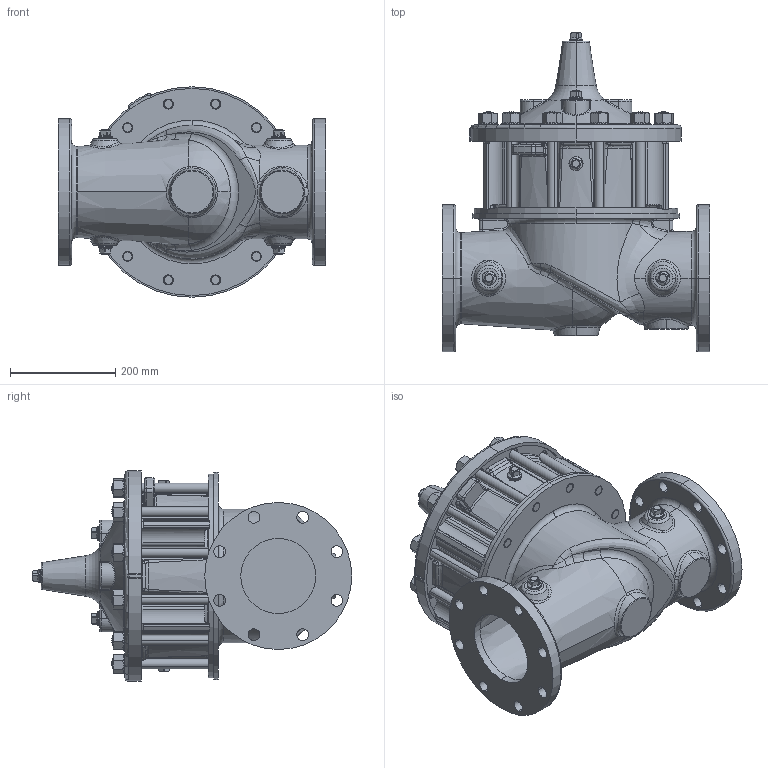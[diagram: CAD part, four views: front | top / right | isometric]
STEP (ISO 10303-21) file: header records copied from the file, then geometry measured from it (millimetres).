
FILE_DESCRIPTION (( 'STEP AP203' ), '1' );
FILE_NAME ('6in 100-02, 150AG.STEP', '2017-10-05T20:27:25', ( '' ), ( '' ), 'SwSTEP 2.0', 'SolidWorks 2017', '' );
FILE_SCHEMA (( 'CONFIG_CONTROL_DESIGN' ));
Length unit declared in the file: inch
Products named in the file (8): .750 NPT PIPE PLUG (67660)_Default STEEL, CAD PL; 6in 100-02, 150AG; 6in Body HyGl150A STD (BLUE)_Default 150 FLAT FACE; 6in Body, PU_DUCTILE IRON; 6in Cover (BLUE) with 2 or 4 Bosses Drld_2 BOSSES TAPPED; STUD .750-10 UNC (42883)_8  48034D; Hexnut .750-10 UNC (67811)_NUT, HEX HEAVY  67811-08D; WASHER, PLAIN FLAT FOR .750 SCREW (67753)_.750N   67753-04G
Assembly tree (48 placements, depth 2):
  6in 100-02, 150AG
    6in Body HyGl150A STD (BLUE)_Default 150 FLAT FACE
    6in Body, PU_DUCTILE IRON
    6in Cover (BLUE) with 2 or 4 Bosses Drld_2 BOSSES TAPPED
    STUD .750-10 UNC (42883)_8  48034D  x12
    Hexnut .750-10 UNC (67811)_NUT, HEX HEAVY  67811-08D  x12
    WASHER, PLAIN FLAT FOR .750 SCREW (67753)_.750N   67753-04G  x12
    .750 NPT PIPE PLUG (67660)_Default STEEL, CAD PL  x9
Bounding box: 508 x 607.31 x 400.05 mm (x, y, z)
Volume: 33369550.7 mm3; surface area: 1893447.1 mm2
Topology: 48 solids, 48 shells, 2054 faces, 4634 edges, 2646 vertices
Faces by surface type: cone 644, cylinder 454, bspline 313, plane 312, torus 199, sphere 132
Entity records: 40257 total; most frequent: CARTESIAN_POINT 19265, ORIENTED_EDGE 4040, DIRECTION 4039, EDGE_CURVE 2020, AXIS2_PLACEMENT_3D 1788, VERTEX_POINT 1223, CIRCLE 1093, EDGE_LOOP 963
